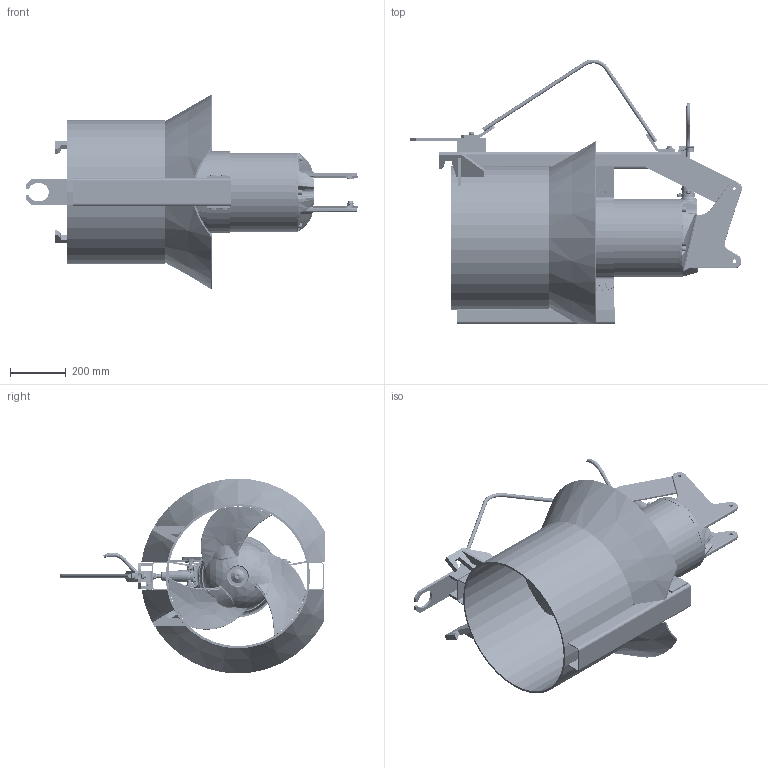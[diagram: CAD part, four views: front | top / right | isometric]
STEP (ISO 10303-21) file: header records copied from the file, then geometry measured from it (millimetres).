
FILE_DESCRIPTION (( 'STEP AP214' ), '1' );
FILE_NAME ('XRCP500_MSD.STEP', '2022-11-16T10:17:06', ( '' ), ( '' ), 'SwSTEP 2.0', 'SolidWorks 2017', '' );
FILE_SCHEMA (( 'AUTOMOTIVE_DESIGN' ));
Length unit declared in the file: millimetre
Products named in the file (1): XRCP500_MSD
Bounding box: 1185.81 x 946.51 x 696.45 mm (x, y, z)
Volume: 28394063.7 mm3; surface area: 7981285.2 mm2
Topology: 425 solids, 428 shells, 11640 faces, 27040 edges, 16315 vertices
Faces by surface type: cylinder 3692, plane 3496, torus 1713, bspline 1586, cone 814, sphere 339
Entity records: 691907 total; most frequent: CARTESIAN_POINT 302228, DIRECTION 54320, ORIENTED_EDGE 53094, EDGE_CURVE 26547, AXIS2_PLACEMENT_3D 21909, VERTEX_POINT 16155, EDGE_LOOP 12514, UNCERTAINTY_MEASURE_WITH_UNIT 12067
